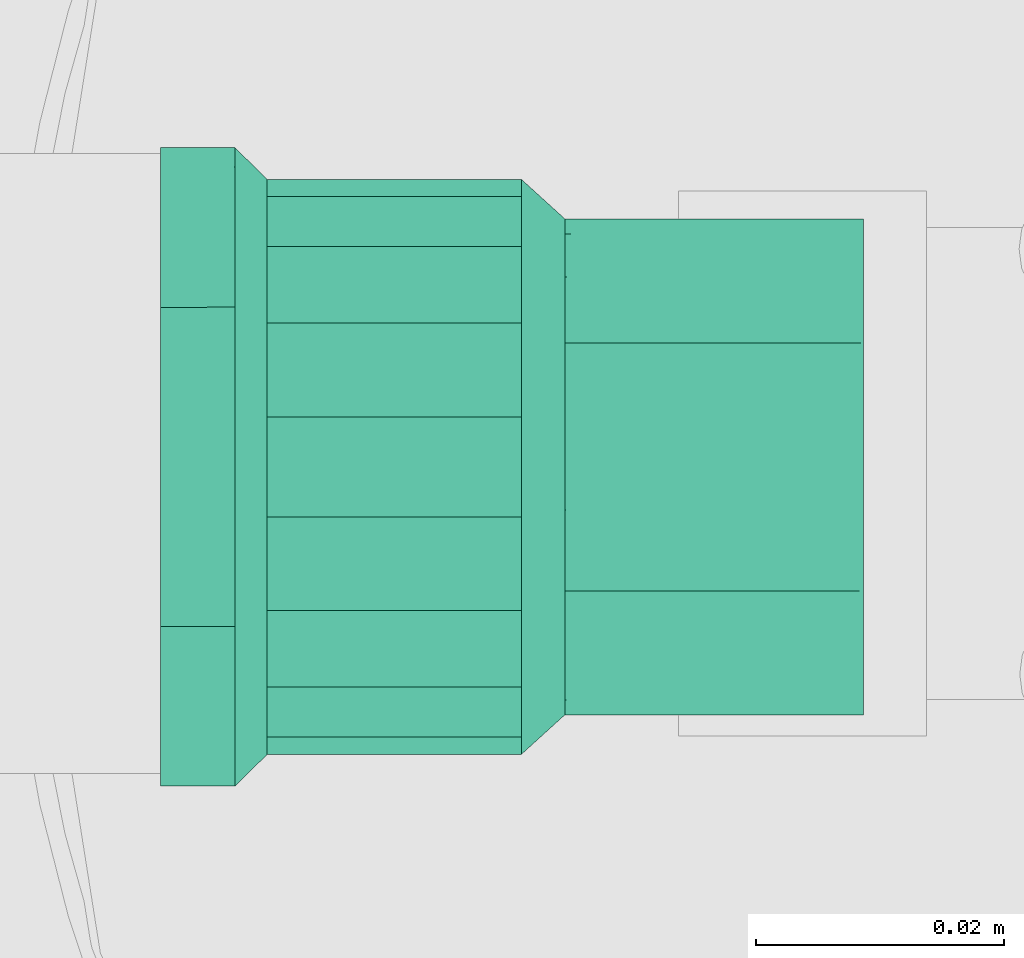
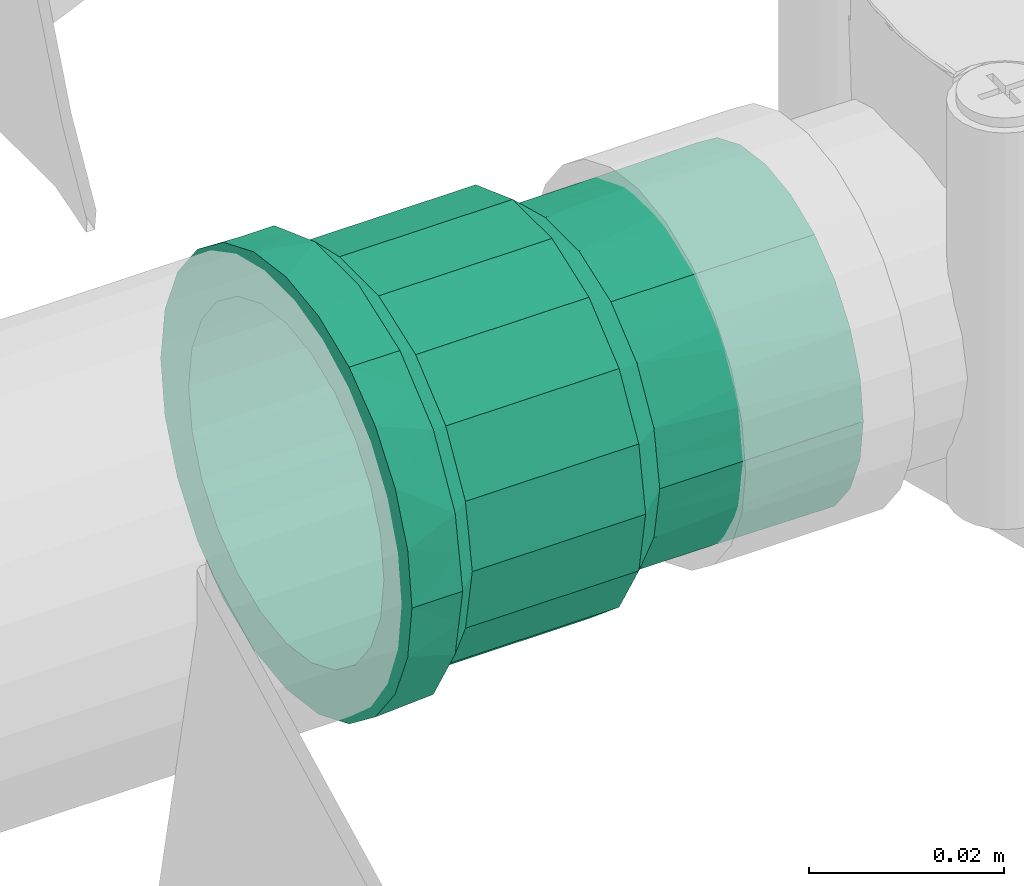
# One storey, part 159 of 166: 1 flow fitting.
"""IFC2X3 building model written with IfcOpenShell, lengths in metres."""

from ifc_helpers import new_model, entity, si_unit, converted_unit, direction, frame, origin, place, context, subcontext, project, spatial, faceted_brep, source, transform, mapped, material, type_object, type_shapes, element, save


model = new_model("IFC2X3")

# Units and contexts
model_context = context("Model", 3, precision=1e-05, world=origin(), true_north=direction((6.123233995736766e-17, 1.0)))
body_context = subcontext(model_context, "Body", "Model", "MODEL_VIEW")
ifc_project = project(units=[si_unit("LENGTHUNIT", "METRE"), converted_unit("PLANEANGLEUNIT", "DEGREE", entity("IfcPlaneAngleMeasure", 0.017453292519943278), si_unit("PLANEANGLEUNIT", "RADIAN"), dimensions=[0, 0, 0, 0, 0, 0, 0]), si_unit("AREAUNIT", "SQUARE_METRE")], contexts=[model_context])

# Site, building, storey
site_placement = place(None, origin())
site = spatial("IfcSite", under=ifc_project, at=site_placement, Name="Default", CompositionType="ELEMENT")
building_placement = place(site_placement, origin())
building = spatial("IfcBuilding", under=site, at=building_placement, Name="CASA DE ACOLHIDA PARA IDOSOS", CompositionType="ELEMENT")
storey_placement = place(building_placement, frame((0.0, 0.0, -1.7499999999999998)))
storey = spatial("IfcBuildingStorey", under=building, at=storey_placement, Name="IMPLANTAÇÃO DRENAGEM", CompositionType="ELEMENT", Elevation=-1.7499999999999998)

# Flow fitting
ifc_material = material(Name="PVC Marrom")
pipe_fitting_type = type_object("IfcPipeFittingType", Name="AF_Soldavel_Adaptador Curto com Bolsa e Rosca:Standard", PredefinedType="NOTDEFINED", material=ifc_material)
shared_shape = source(origin(), body_context, "Body", "Brep", [
    faceted_brep([(0.0, 0.0099999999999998, -0.017320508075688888), (0.0, 0.018207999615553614, -0.018207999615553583), (0.0, 0.012875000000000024, -0.02230015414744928), (0.0, 0.014142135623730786, -0.014142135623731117), (0.0, 0.0051763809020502, -0.019318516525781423), (0.0, 0.022300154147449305, -0.01287499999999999), (0.0, 0.01732050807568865, -0.01000000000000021), (0.0, 0.0193185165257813, -0.005176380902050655), (0.0, 0.02487259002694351, -0.006664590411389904), (0.0, 0.02, 0.0), (0.0, 0.025750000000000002, 0.0), (0.0, 0.019318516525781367, 0.00517638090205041), (0.0, 0.024872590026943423, 0.006664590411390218), (0.0, 0.01732050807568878, 0.00999999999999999), (0.0, 0.02230015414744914, 0.012875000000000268), (0.0, 0.014142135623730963, 0.014142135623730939), (0.0, 0.018207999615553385, 0.018207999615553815), (0.0, 0.010000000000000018, 0.017320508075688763), (0.0, 0.012874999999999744, 0.022300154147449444), (0.0, 0.00517638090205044, 0.01931851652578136), (0.0, 0.006664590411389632, 0.024872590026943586), (0.0, 0.0, 0.02), (0.0, 0.0, 0.025750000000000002), (0.0, -0.005176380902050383, 0.019318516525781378), (0.0, -0.0066645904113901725, 0.024872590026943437), (0.0, -0.009999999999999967, 0.017320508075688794), (0.0, -0.012875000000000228, 0.022300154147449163), (0.0, -0.01414213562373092, 0.014142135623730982), (0.0, -0.01820799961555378, 0.01820799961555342), (0.0, -0.01732050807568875, 0.010000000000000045), (0.0, -0.02230015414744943, 0.012874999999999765), (0.0, -0.024872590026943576, 0.006664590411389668), (0.0, -0.01931851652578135, 0.005176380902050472), (0.0, -0.025750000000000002, 0.0), (0.0, -0.02, 0.0), (0.0, -0.02487259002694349, -0.006664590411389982), (0.0, -0.01931851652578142, -0.005176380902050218), (0.0, -0.02230015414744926, -0.012875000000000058), (0.0, -0.01732050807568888, -0.009999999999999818), (0.0, -0.01820799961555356, -0.018207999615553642), (0.0, -0.014142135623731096, -0.014142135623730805), (0.0, -0.012874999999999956, -0.022300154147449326), (0.0, -0.010000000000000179, -0.01732050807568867), (0.0, -0.006664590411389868, -0.024872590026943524), (0.0, -0.005176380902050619, -0.01931851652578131), (0.0, 0.0, -0.025750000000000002), (0.0, 0.0, -0.02), (0.0, 0.006664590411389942, -0.0248725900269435), (0.005999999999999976, -0.024973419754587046, 0.004403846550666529), (0.005999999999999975, -0.024768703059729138, 0.005564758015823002), (0.005999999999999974, -0.024196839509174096, 0.008807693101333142), (0.005999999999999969, -0.019724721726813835, 0.016552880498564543), (0.005999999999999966, -0.016298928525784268, 0.019427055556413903), (0.005999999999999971, -0.021960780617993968, 0.012680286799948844), (0.005999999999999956, -0.004468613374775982, 0.02535929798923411), (0.00599999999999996, -0.008670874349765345, 0.02383026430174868), (0.0059999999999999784, -0.025750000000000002, 0.0), (0.0059999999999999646, -0.01287313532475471, 0.02230123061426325), (0.005999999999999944, 0.008676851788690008, 0.023828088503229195), (0.00599999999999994, 0.012878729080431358, 0.022298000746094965), (0.005999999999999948, 0.004474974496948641, 0.02535817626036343), (0.005999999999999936, 0.016303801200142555, 0.019422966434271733), (0.005999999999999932, 0.019728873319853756, 0.016547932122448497), (0.005999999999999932, 0.024199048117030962, 0.008801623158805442), (0.0059999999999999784, 0.025750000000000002, 0.0), (0.005999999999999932, 0.021963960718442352, 0.012674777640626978), (0.0059999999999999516, 3.180561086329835e-06, 0.02535873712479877), (0.006000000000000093, 0.024199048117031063, -0.00880162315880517), (0.006000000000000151, 0.019728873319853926, -0.016547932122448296), (0.006000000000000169, 0.01630380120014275, -0.019422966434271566), (0.006000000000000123, 0.021963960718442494, -0.012674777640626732), (0.006000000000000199, 0.004474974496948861, -0.025358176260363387), (0.006000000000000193, 0.008676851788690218, -0.023828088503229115), (0.006000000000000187, 0.012878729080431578, -0.02229800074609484), (0.006000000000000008, -0.02497341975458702, -0.004403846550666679), (0.006000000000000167, -0.008670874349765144, -0.023830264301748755), (0.0060000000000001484, -0.012873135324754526, -0.022301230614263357), (0.006000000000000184, -0.004468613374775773, -0.02535929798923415), (0.006000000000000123, -0.016298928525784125, -0.019427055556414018), (0.006000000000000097, -0.01972472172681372, -0.016552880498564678), (0.006000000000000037, -0.024196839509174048, -0.008807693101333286), (0.006000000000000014, -0.024768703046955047, -0.005564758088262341), (0.006000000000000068, -0.021960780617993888, -0.012680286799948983), (0.006000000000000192, 3.1805610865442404e-06, -0.02535873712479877), (0.029099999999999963, -0.021800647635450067, 0.007935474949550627), (0.008600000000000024, -0.021800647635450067, 0.007935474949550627), (0.008600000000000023, -0.022500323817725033, 0.0039677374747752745), (0.00860000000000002, -0.023200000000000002, 0.0), (0.02910000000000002, -0.023200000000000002, 0.0), (0.02909999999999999, -0.022482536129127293, 0.004068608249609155), (0.02909999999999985, -0.011598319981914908, 0.020092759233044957), (0.00860000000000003, -0.011598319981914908, 0.020092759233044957), (0.00860000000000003, -0.014684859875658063, 0.017503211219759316), (0.008600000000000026, -0.017771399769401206, 0.014913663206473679), (0.029099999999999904, -0.017771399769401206, 0.014913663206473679), (0.02909999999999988, -0.014684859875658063, 0.017503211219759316), (0.008600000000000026, -0.019786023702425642, 0.011424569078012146), (0.02909999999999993, -0.019786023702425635, 0.01142456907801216), (0.00860000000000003, -0.007812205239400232, 0.02147037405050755), (0.02909999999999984, -0.007812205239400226, 0.021470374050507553), (0.029099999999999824, -0.004026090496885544, 0.02284798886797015), (0.00860000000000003, -0.004026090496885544, 0.02284798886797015), (0.00860000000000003, 2.8655929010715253e-06, 0.022847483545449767), (0.029099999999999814, 2.8655929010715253e-06, 0.022847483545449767), (0.029099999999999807, 0.004031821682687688, 0.022846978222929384), (0.00860000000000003, 0.004031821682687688, 0.022846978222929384), (0.029099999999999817, 0.011603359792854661, 0.020089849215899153), (0.00860000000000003, 0.011603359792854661, 0.020089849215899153), (0.00860000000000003, 0.007817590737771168, 0.021468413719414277), (0.029099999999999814, 0.007817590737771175, 0.021468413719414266), (0.029099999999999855, 0.017775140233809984, 0.014909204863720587), (0.00860000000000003, 0.017775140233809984, 0.014909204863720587), (0.00860000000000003, 0.01468925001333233, 0.017499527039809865), (0.02909999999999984, 0.014689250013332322, 0.01749952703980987), (0.02909999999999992, 0.021802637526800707, 0.00793000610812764), (0.008600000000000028, 0.021802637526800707, 0.00793000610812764), (0.00860000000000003, 0.019788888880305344, 0.01141960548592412), (0.02909999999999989, 0.019788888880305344, 0.011419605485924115), (0.02910000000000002, 0.023200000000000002, 0.0), (0.00860000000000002, 0.023200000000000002, 0.0), (0.029100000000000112, 0.021802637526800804, -0.007930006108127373), (0.008600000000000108, 0.021802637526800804, -0.007930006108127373), (0.00860000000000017, -0.011598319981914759, -0.020092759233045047), (0.02910000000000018, -0.011598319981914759, -0.020092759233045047), (0.02910000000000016, -0.01468485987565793, -0.017503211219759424), (0.029100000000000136, -0.0177713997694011, -0.014913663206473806), (0.008600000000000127, -0.0177713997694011, -0.014913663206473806), (0.00860000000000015, -0.01468485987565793, -0.017503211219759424), (0.0086000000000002, 0.01160335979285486, -0.020089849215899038), (0.00860000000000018, 0.014689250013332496, -0.017499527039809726), (0.008600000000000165, 0.017775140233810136, -0.014909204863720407), (0.02910000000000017, 0.017775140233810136, -0.014909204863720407), (0.029100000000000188, 0.014689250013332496, -0.017499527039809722), (0.02910000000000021, 0.01160335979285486, -0.020089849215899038), (0.029100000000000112, -0.01978602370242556, -0.011424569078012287), (0.02910000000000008, -0.021800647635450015, -0.007935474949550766), (0.008600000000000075, -0.021800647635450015, -0.007935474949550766), (0.0086000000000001, -0.01978602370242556, -0.011424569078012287), (0.008600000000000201, -0.004026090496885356, -0.022847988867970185), (0.029100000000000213, -0.004026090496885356, -0.022847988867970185), (0.029100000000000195, -0.007812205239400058, -0.021470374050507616), (0.008600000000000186, -0.007812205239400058, -0.021470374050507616), (0.008600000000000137, 0.019788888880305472, -0.01141960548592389), (0.029100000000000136, 0.01978888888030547, -0.01141960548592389), (0.008600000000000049, -0.02250032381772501, -0.00396773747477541), (0.029100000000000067, -0.022258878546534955, -0.005336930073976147), (0.029100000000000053, -0.02248253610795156, -0.004068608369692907), (0.008600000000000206, 0.00781759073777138, -0.02146841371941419), (0.029100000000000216, 0.00781759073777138, -0.02146841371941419), (0.029100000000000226, 0.0040318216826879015, -0.022846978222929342), (0.008600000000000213, 0.0040318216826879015, -0.022846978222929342), (0.008600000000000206, 2.8655929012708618e-06, -0.022847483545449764), (0.02910000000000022, 2.8655929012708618e-06, -0.022847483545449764), (0.056699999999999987, 0.0, -0.02), (0.056699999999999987, 0.00517638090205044, -0.01931851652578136), (0.056699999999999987, 0.010000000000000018, -0.017320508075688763), (0.056699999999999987, 0.014142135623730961, -0.01414213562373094), (0.056699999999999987, 0.01732050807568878, -0.009999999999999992), (0.056699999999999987, 0.019318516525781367, -0.00517638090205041), (0.056699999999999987, 0.02, 0.0), (0.056699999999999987, 0.0193185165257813, 0.005176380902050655), (0.056699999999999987, 0.01732050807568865, 0.01000000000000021), (0.056699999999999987, 0.014142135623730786, 0.014142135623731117), (0.056699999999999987, 0.0099999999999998, 0.017320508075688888), (0.056699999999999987, 0.0051763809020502, 0.019318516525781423), (0.056699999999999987, 0.0, 0.02), (0.056699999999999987, -0.005176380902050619, 0.01931851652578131), (0.056699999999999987, -0.010000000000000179, 0.01732050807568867), (0.056699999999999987, -0.014142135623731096, 0.014142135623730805), (0.056699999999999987, -0.01732050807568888, 0.009999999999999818), (0.056699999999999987, -0.01931851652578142, 0.005176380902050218), (0.056699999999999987, -0.02, 0.0), (0.056699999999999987, -0.01931851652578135, -0.005176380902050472), (0.056699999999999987, -0.01732050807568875, -0.010000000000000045), (0.056699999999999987, -0.01414213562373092, -0.014142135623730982), (0.056699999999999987, -0.009999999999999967, -0.017320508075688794), (0.056699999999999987, -0.005176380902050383, -0.019318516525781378), (0.03261999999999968, -0.0067346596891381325, 0.018508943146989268), (0.03261999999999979, -0.015320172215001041, 0.012856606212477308), (0.03261999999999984, -0.017056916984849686, 0.0098487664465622), (0.032619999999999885, -0.01879366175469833, 0.006840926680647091), (0.032619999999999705, -0.009998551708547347, 0.01732134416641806), (0.032619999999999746, -0.012659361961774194, 0.015088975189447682), (0.03261999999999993, -0.019188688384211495, 0.004600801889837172), (0.032619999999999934, -0.01939683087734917, 0.0034204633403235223), (0.03261999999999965, -0.0034707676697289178, 0.019696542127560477), (0.03261999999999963, 0.0034757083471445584, 0.019695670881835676), (0.032619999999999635, 2.470338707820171e-06, 0.019696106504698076), (0.03261999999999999, -0.02, 0.0), (0.032619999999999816, 0.01879537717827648, 0.006836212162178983), (0.03261999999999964, 0.006739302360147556, 0.018507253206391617), (0.03261999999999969, 0.012663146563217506, 0.0150857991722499), (0.032619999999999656, 0.010002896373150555, 0.017318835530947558), (0.03261999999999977, 0.01705938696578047, 0.009844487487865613), (0.03261999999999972, 0.015323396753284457, 0.012852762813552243), (0.03261999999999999, 0.02, 0.0), (0.03262000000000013, 0.015323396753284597, -0.012852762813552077), (0.0326200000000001, 0.017059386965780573, -0.009844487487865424), (0.03262000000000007, 0.018795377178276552, -0.006836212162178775), (0.032620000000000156, 0.010002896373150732, -0.017318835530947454), (0.03262000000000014, 0.012663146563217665, -0.015085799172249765), (0.03262000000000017, 0.0034757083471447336, -0.019695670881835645), (0.03262000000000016, 0.006739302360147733, -0.01850725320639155), (0.032620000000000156, -0.0034707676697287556, -0.019696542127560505), (0.03262000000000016, 2.4703387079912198e-06, -0.019696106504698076), (0.03262000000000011, -0.012659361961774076, -0.015088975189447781), (0.032620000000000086, -0.015320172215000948, -0.01285660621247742), (0.03262000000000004, -0.018793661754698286, -0.006840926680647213), (0.03262000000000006, -0.01705691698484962, -0.009848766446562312), (0.03262000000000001, -0.01939683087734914, -0.0034204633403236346), (0.03262000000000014, -0.006734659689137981, -0.018508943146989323), (0.03262000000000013, -0.009998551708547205, -0.017321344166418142), (0.00860000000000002, -0.02, 0.0), (0.02910000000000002, -0.02, 0.0), (0.02910000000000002, -0.019318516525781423, -0.005176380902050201), (0.00860000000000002, -0.019318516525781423, -0.005176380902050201), (0.0059999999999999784, -0.019318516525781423, -0.005176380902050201), (0.0059999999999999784, -0.02, 0.0), (0.02910000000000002, -0.017320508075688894, -0.009999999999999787), (0.00860000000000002, -0.017320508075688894, -0.009999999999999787), (0.0059999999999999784, -0.017320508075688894, -0.009999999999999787), (0.00860000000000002, -0.010000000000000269, -0.017320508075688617), (0.0059999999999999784, -0.010000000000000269, -0.017320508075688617), (0.0059999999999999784, -0.014142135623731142, -0.01414213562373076), (0.00860000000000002, -0.014142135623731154, -0.014142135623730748), (0.02910000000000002, -0.014142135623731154, -0.014142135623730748), (0.02910000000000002, -0.010000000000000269, -0.017320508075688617), (0.00860000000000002, -0.005176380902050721, -0.019318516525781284), (0.0059999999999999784, -0.005176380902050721, -0.019318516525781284), (0.02910000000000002, -0.005176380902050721, -0.019318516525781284), (0.02910000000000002, 0.0, -0.02), (0.00860000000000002, 0.0, -0.02), (0.0059999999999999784, 0.0, -0.02), (0.02910000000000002, 0.005176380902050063, -0.01931851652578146), (0.00860000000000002, 0.005176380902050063, -0.01931851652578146), (0.0059999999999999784, 0.005176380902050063, -0.01931851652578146), (0.02910000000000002, 0.009999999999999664, -0.017320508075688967), (0.00860000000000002, 0.009999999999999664, -0.017320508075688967), (0.0059999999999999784, 0.009999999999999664, -0.017320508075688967), (0.00860000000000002, 0.017320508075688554, -0.010000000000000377), (0.0059999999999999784, 0.017320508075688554, -0.010000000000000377), (0.0059999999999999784, 0.01414213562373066, -0.014142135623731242), (0.00860000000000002, 0.014142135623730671, -0.01414213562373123), (0.02910000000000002, 0.014142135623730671, -0.01414213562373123), (0.02910000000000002, 0.017320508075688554, -0.010000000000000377), (0.00860000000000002, 0.019318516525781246, -0.00517638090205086), (0.0059999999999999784, 0.019318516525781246, -0.00517638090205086), (0.02910000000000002, 0.019318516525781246, -0.00517638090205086), (0.02910000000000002, 0.02, 0.0), (0.00860000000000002, 0.02, 0.0), (0.0059999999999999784, 0.02, 0.0), (0.02910000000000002, 0.01931851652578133, 0.005176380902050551), (0.00860000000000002, 0.01931851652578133, 0.005176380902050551), (0.0059999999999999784, 0.01931851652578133, 0.005176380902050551), (0.02910000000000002, 0.017320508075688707, 0.010000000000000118), (0.00860000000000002, 0.017320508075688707, 0.010000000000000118), (0.0059999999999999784, 0.017320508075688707, 0.010000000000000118), (0.00860000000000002, 0.009999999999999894, 0.017320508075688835), (0.0059999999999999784, 0.009999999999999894, 0.017320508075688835), (0.0059999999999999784, 0.014142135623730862, 0.014142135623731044), (0.00860000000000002, 0.014142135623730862, 0.014142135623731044), (0.02910000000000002, 0.014142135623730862, 0.014142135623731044), (0.02910000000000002, 0.009999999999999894, 0.017320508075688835), (0.00860000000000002, 0.005176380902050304, 0.019318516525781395), (0.0059999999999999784, 0.005176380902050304, 0.019318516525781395), (0.02910000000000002, 0.005176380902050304, 0.019318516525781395), (0.02910000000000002, 0.0, 0.02), (0.00860000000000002, 0.0, 0.02), (0.0059999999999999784, 0.0, 0.02), (0.02910000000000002, -0.005176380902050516, 0.01931851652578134), (0.00860000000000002, -0.005176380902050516, 0.01931851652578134), (0.0059999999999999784, -0.005176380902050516, 0.01931851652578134), (0.00860000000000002, -0.019318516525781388, 0.005176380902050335), (0.0059999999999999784, -0.019318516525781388, 0.005176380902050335), (0.0059999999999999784, -0.017320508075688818, 0.009999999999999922), (0.00860000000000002, -0.017320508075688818, 0.009999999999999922), (0.02910000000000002, -0.017320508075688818, 0.009999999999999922), (0.02910000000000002, -0.019318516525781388, 0.005176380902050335), (0.00860000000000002, -0.014142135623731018, 0.014142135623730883), (0.02910000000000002, -0.014142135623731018, 0.014142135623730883), (0.0059999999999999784, -0.014142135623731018, 0.014142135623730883), (0.02910000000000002, -0.010000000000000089, 0.017320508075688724), (0.00860000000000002, -0.010000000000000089, 0.017320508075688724), (0.0059999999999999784, -0.010000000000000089, 0.017320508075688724)], [[[0, 1, 2]], [[3, 1, 0]], [[4, 0, 2]], [[1, 3, 5]], [[5, 3, 6]], [[5, 6, 7]], [[8, 5, 7]], [[9, 8, 7]], [[10, 8, 9]], [[10, 9, 11]], [[12, 10, 11]], [[12, 11, 13]], [[14, 12, 13]], [[14, 13, 15]], [[15, 16, 14]], [[15, 17, 16]], [[18, 16, 17]], [[19, 18, 17]], [[18, 19, 20]], [[21, 20, 19]], [[22, 20, 21]], [[21, 23, 22]], [[24, 22, 23]], [[25, 24, 23]], [[24, 25, 26]], [[25, 27, 26]], [[27, 28, 26]], [[28, 27, 29]], [[28, 29, 30]], [[30, 29, 31]], [[31, 29, 32]], [[33, 31, 32]], [[32, 34, 33]], [[33, 34, 35]], [[34, 36, 35]], [[37, 35, 36]], [[37, 36, 38]], [[39, 37, 38]], [[40, 39, 38]], [[40, 41, 39]], [[42, 41, 40]], [[43, 41, 42]], [[42, 44, 43]], [[43, 44, 45]], [[44, 46, 45]], [[46, 4, 47]], [[45, 46, 47]], [[2, 47, 4]], [[31, 48, 49, 50]], [[28, 51, 52]], [[51, 30, 50, 53]], [[54, 24, 55]], [[30, 31, 50]], [[56, 48, 33]], [[52, 57, 26]], [[52, 26, 28]], [[30, 51, 28]], [[58, 59, 18]], [[58, 18, 20]], [[26, 57, 55]], [[26, 55, 24]], [[22, 24, 54]], [[33, 48, 31]], [[20, 60, 58]], [[16, 61, 62]], [[12, 63, 64]], [[63, 14, 62, 65]], [[12, 64, 10]], [[18, 61, 16]], [[22, 54, 66, 60]], [[22, 60, 20]], [[14, 16, 62]], [[59, 61, 18]], [[14, 63, 12]], [[8, 64, 67]], [[1, 68, 69]], [[68, 5, 67, 70]], [[71, 47, 72]], [[5, 8, 67]], [[8, 10, 64]], [[2, 72, 47]], [[69, 73, 2]], [[5, 68, 1]], [[74, 33, 35]], [[75, 76, 41]], [[2, 73, 72]], [[75, 41, 43]], [[45, 47, 71]], [[69, 2, 1]], [[43, 77, 75]], [[39, 78, 79]], [[35, 80, 81, 74]], [[80, 37, 79, 82]], [[37, 80, 35]], [[41, 78, 39]], [[45, 71, 83, 77]], [[45, 77, 43]], [[37, 39, 79]], [[76, 78, 41]], [[74, 56, 33]], [[84, 85, 86, 87, 88, 89]], [[90, 91, 92, 93, 94, 95]], [[96, 85, 84, 97, 94, 93]], [[98, 91, 90, 99, 100, 101]], [[102, 101, 100, 103, 104, 105]], [[106, 107, 108, 105, 104, 109]], [[110, 111, 112, 107, 106, 113]], [[114, 115, 116, 111, 110, 117]], [[114, 118, 119, 115]], [[119, 118, 120, 121]], [[122, 123, 124, 125, 126, 127]], [[128, 129, 130, 131, 132, 133]], [[134, 135, 136, 137, 126, 125]], [[138, 139, 140, 123, 122, 141]], [[142, 121, 120, 143, 131, 130]], [[88, 87, 144, 136, 135, 145, 146]], [[147, 128, 133, 148, 149, 150]], [[151, 150, 149, 152, 139, 138]], [[153, 154, 155, 156, 157, 158, 159, 160, 161, 162, 163, 164, 165, 166, 167, 168, 169, 170, 171, 172, 173, 174, 175, 176]], [[177, 167, 166]], [[169, 168, 178]], [[169, 178, 179, 180]], [[181, 182, 167]], [[170, 180, 183, 184]], [[166, 185, 177]], [[178, 168, 182]], [[165, 186, 187, 185]], [[167, 182, 168]], [[184, 171, 170]], [[184, 188, 171]], [[169, 180, 170]], [[164, 186, 165]], [[161, 160, 189]], [[163, 190, 164]], [[191, 192, 163]], [[161, 189, 193, 194]], [[195, 160, 159]], [[190, 186, 164]], [[163, 192, 190]], [[161, 194, 162]], [[177, 181, 167]], [[162, 194, 191]], [[191, 163, 162]], [[160, 195, 189]], [[165, 185, 166]], [[195, 159, 158]], [[157, 156, 196]], [[157, 196, 197, 198]], [[199, 200, 155]], [[198, 195, 158]], [[154, 201, 202]], [[196, 156, 200]], [[153, 203, 204, 201]], [[153, 201, 154]], [[155, 200, 156]], [[205, 175, 174]], [[202, 155, 154]], [[202, 199, 155]], [[173, 206, 174]], [[157, 198, 158]], [[173, 172, 207]], [[173, 207, 208, 206]], [[171, 209, 172]], [[171, 188, 209]], [[176, 210, 203]], [[203, 153, 176]], [[211, 210, 175]], [[175, 210, 176]], [[174, 206, 205]], [[209, 207, 172]], [[205, 211, 175]], [[212, 213, 214, 215, 216, 36, 34, 217]], [[215, 214, 218, 219, 220, 38, 36, 216]], [[221, 222, 42, 40, 223, 224, 225, 226]], [[225, 224, 223, 40, 38, 220, 219, 218]], [[227, 228, 44, 42, 222, 221, 226, 229]], [[227, 229, 230, 231, 232, 46, 44, 228]], [[231, 230, 233, 234, 235, 4, 46, 232]], [[234, 233, 236, 237, 238, 0, 4, 235]], [[239, 240, 6, 3, 241, 242, 243, 244]], [[243, 242, 241, 3, 0, 238, 237, 236]], [[245, 246, 7, 6, 240, 239, 244, 247]], [[247, 248, 249, 250, 9, 7, 246, 245]], [[249, 248, 251, 252, 253, 11, 9, 250]], [[252, 251, 254, 255, 256, 13, 11, 253]], [[257, 258, 17, 15, 259, 260, 261, 262]], [[261, 260, 259, 15, 13, 256, 255, 254]], [[263, 264, 19, 17, 258, 257, 262, 265]], [[263, 265, 266, 267, 268, 21, 19, 264]], [[269, 270, 271, 23, 21, 268, 267, 266]], [[272, 273, 32, 29, 274, 275, 276, 277]], [[278, 279, 276, 275, 274, 29, 27, 280]], [[212, 217, 34, 32, 273, 272, 277, 213]], [[281, 282, 283, 25, 23, 271, 270, 269]], [[279, 278, 280, 27, 25, 283, 282, 281]], [[119, 121, 67, 64]], [[128, 73, 69, 68, 130, 129]], [[73, 128, 147, 150, 71, 72]], [[130, 68, 70, 67, 121, 142]], [[77, 138, 141, 122, 76, 75]], [[136, 80, 82, 79, 126, 137]], [[81, 80, 136, 144, 87, 56, 74]], [[83, 71, 150, 151, 138, 77]], [[78, 76, 122, 127, 126, 79]], [[85, 50, 49, 48, 56, 87, 86]], [[53, 50, 85, 96, 93, 51]], [[52, 51, 93, 92, 91, 57]], [[91, 98, 101, 54, 55, 57]], [[102, 105, 60, 66, 54, 101]], [[108, 107, 59, 58, 60, 105]], [[115, 119, 64, 63]], [[111, 116, 115, 63, 65, 62]], [[107, 112, 111, 62, 61, 59]], [[230, 229, 226, 225, 218, 214, 213, 277, 276, 279, 281, 269, 266, 265, 262, 261, 254, 251, 248, 247, 244, 243, 236, 233]], [[84, 89, 88, 188, 184, 183, 180]], [[185, 100, 99, 90, 181, 177]], [[95, 94, 178, 182, 181, 90]], [[97, 84, 180, 179, 178, 94]], [[100, 185, 187, 186, 104, 103]], [[189, 114, 117, 110, 194, 193]], [[104, 186, 190, 192, 106, 109]], [[189, 195, 118, 114]], [[113, 106, 192, 191, 194, 110]], [[195, 198, 120, 118]], [[133, 199, 202, 201, 149, 148]], [[199, 133, 132, 131, 196, 200]], [[143, 120, 198, 197, 196, 131]], [[139, 203, 210, 211, 123, 140]], [[207, 135, 134, 125, 206, 208]], [[145, 135, 207, 209, 188, 88, 146]], [[152, 149, 201, 204, 203, 139]], [[124, 123, 211, 205, 206, 125]]]),
])
type_shapes(pipe_fitting_type, [shared_shape])
flow_fitting_placement = place(storey_placement, frame((-49.25616936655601, 49.254671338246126, -0.20000000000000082)))
element("IfcFlowFitting", 1, at=flow_fitting_placement, inside=storey, type_object=pipe_fitting_type, material=ifc_material, Name="AF_Soldavel_Adaptador Curto com Bolsa e Rosca:Standard", ObjectType="AF_Soldavel_Adaptador Curto com Bolsa e Rosca:Standard", context=body_context, shape_type="MappedRepresentation", body=[
    mapped(shared_shape, transform((0.0, 0.0, 0.0), scale=1.0)),
])

save(model, "model.ifc")
